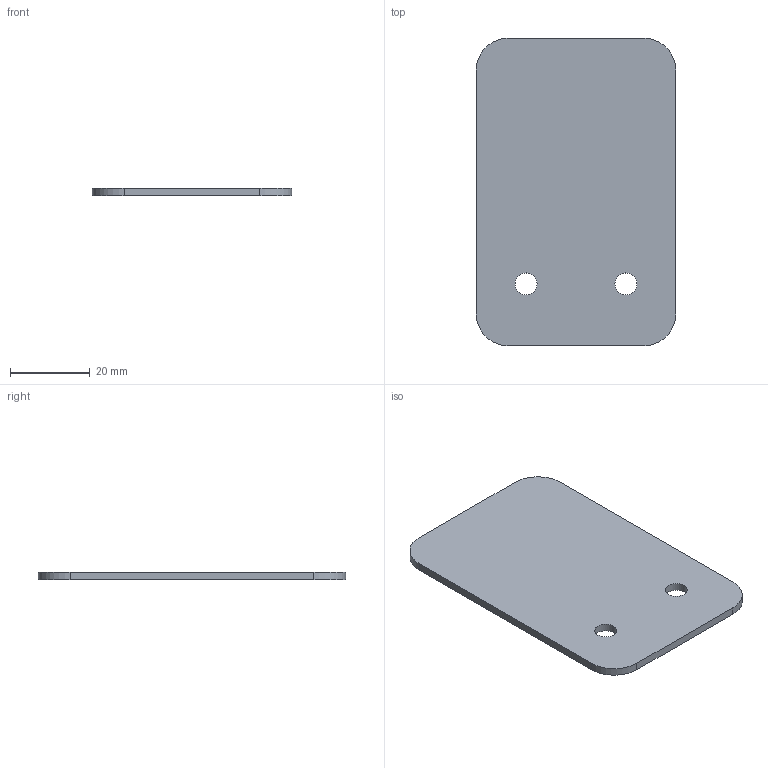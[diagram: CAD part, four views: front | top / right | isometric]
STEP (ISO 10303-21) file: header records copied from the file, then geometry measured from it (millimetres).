
FILE_DESCRIPTION (( 'STEP AP214' ), '1' );
FILE_NAME ('MONO_038-p303_01 (FLAT PATTERN).STEP', '2025-09-23T04:56:28', ( '' ), ( '' ), 'SwSTEP 2.0', 'SolidWorks 2024', '' );
FILE_SCHEMA (( 'AUTOMOTIVE_DESIGN' ));
Length unit declared in the file: millimetre
Products named in the file (1): MONO_038-p303_01 (FLAT PATTERN)
Bounding box: 50 x 77.09 x 2 mm (x, y, z)
Volume: 7503.6 mm3; surface area: 8053.6 mm2
Topology: 1 solids, 1 shells, 12 faces, 30 edges, 20 vertices
Faces by surface type: plane 6, cylinder 6
Full cylindrical faces by diameter (mm): 5.5 x2
Entity records: 387 total; most frequent: DIRECTION 66, CARTESIAN_POINT 61, ORIENTED_EDGE 56, EDGE_CURVE 28, AXIS2_PLACEMENT_3D 25, VERTEX_POINT 20, EDGE_LOOP 18, VECTOR 16
